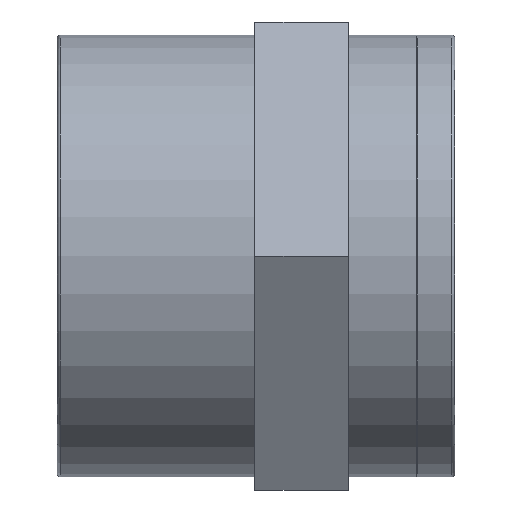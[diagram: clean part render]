
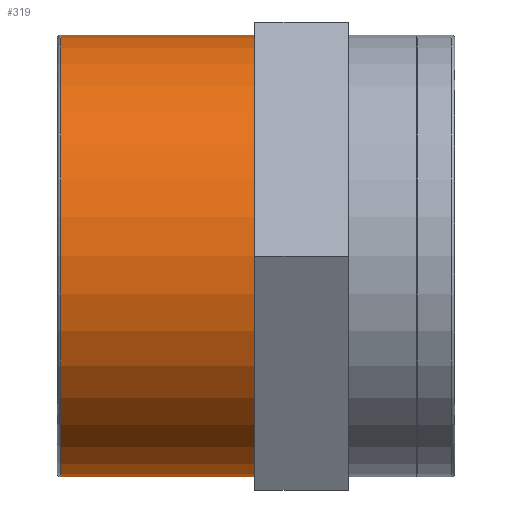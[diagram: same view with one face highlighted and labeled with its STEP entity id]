
A CAD part, top view. The second image highlights one B-rep face of the part: STEP entity #319.
In plain terms, the highlighted cylindrical face has radius 37.8 mm (diameter 75.6 mm), a full revolution.
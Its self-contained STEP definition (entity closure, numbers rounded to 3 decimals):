
#56=CYLINDRICAL_SURFACE('',#356,37.8);
#80=FACE_BOUND('',#132,.T.);
#98=FACE_OUTER_BOUND('',#131,.T.);
#131=EDGE_LOOP('',(#254));
#132=EDGE_LOOP('',(#255));
#165=CIRCLE('',#355,37.8);
#166=CIRCLE('',#357,37.8);
#182=VERTEX_POINT('',#509);
#183=VERTEX_POINT('',#512);
#211=EDGE_CURVE('',#182,#182,#165,.T.);
#212=EDGE_CURVE('',#183,#183,#166,.T.);
#254=ORIENTED_EDGE('',*,*,#212,.T.);
#255=ORIENTED_EDGE('',*,*,#211,.F.);
#319=ADVANCED_FACE('',(#98,#80),#56,.T.);
#355=AXIS2_PLACEMENT_3D('',#510,#417,#418);
#356=AXIS2_PLACEMENT_3D('',#511,#419,#420);
#357=AXIS2_PLACEMENT_3D('',#513,#421,#422);
#417=DIRECTION('center_axis',(-1.,0.,0.));
#418=DIRECTION('ref_axis',(0.,1.,0.));
#419=DIRECTION('center_axis',(-1.,0.,0.));
#420=DIRECTION('ref_axis',(0.,-1.,0.));
#421=DIRECTION('center_axis',(-1.,0.,0.));
#422=DIRECTION('ref_axis',(0.,0.,1.));
#509=CARTESIAN_POINT('',(-33.37,-37.8,0.));
#510=CARTESIAN_POINT('Origin',(-33.37,0.,0.));
#511=CARTESIAN_POINT('Origin',(-17.1,0.,0.));
#512=CARTESIAN_POINT('',(-0.2,-37.8,0.));
#513=CARTESIAN_POINT('Origin',(-0.2,0.,0.));
